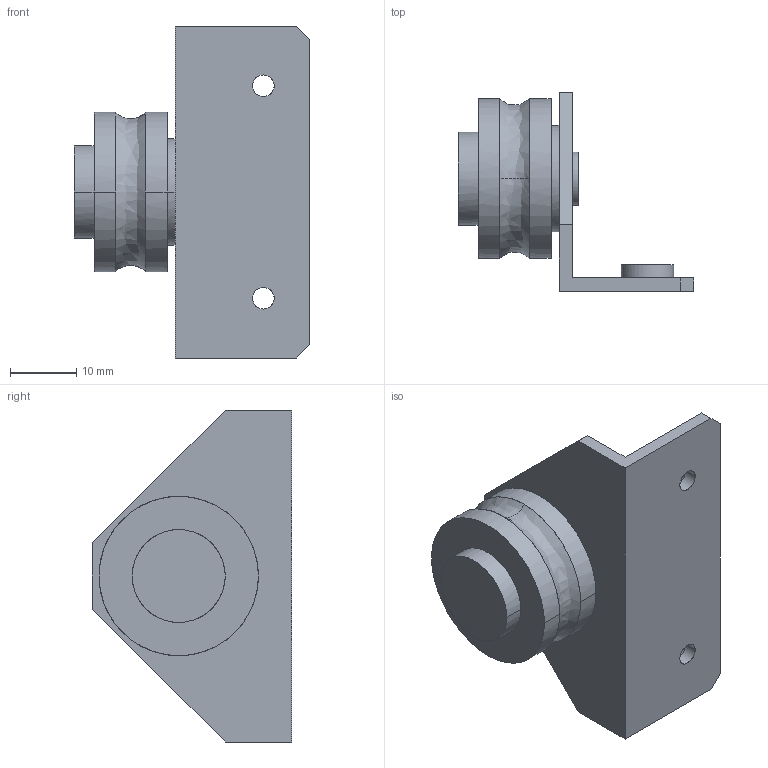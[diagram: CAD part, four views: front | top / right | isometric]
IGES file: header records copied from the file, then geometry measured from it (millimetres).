
Global section: file name: No Iges File Name specified; native system: AutoDesk Inventor R11.0; preprocessor: AutoDesk Inventor Iges Exporter R11.0; author: No Author specified; organization: No Organization specified; date: 20190511.110321; units: millimetre
Bounding box: 35.5 x 30 x 50 mm (x, y, z)
Surface area: 6648.3 mm2 (no closed solid volume)
Topology: 0 solids, 0 shells, 47 faces, 308 edges, 308 vertices
Faces by surface type: bspline 47
